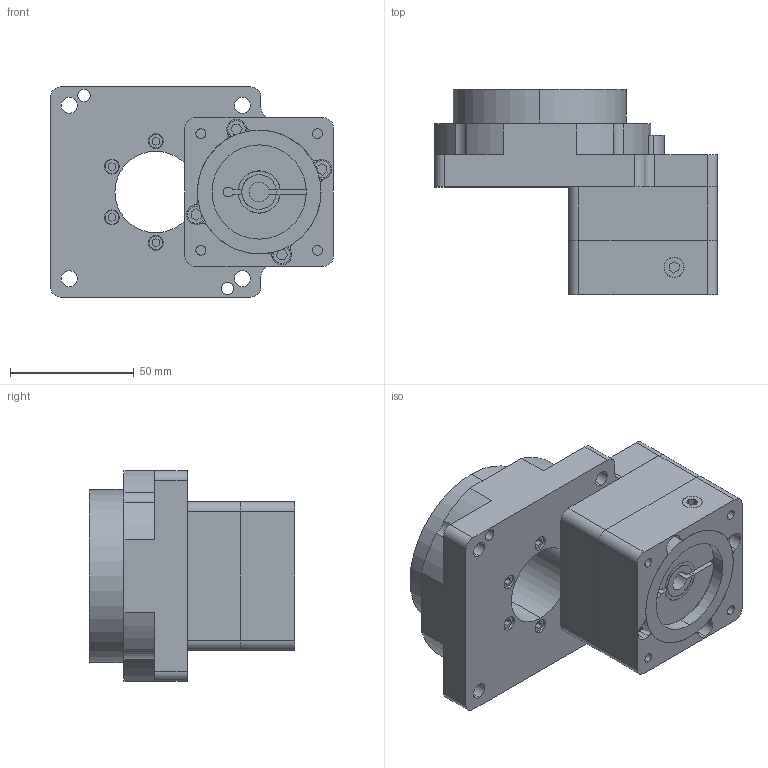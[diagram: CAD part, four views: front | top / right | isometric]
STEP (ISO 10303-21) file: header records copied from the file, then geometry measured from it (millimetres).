
FILE_DESCRIPTION (( 'STEP AP214' ), '1' );
FILE_NAME ('TS85-10K-57²½½ø 38.1 ¦µ8.STEP', '2020-05-13T10:19:45', ( '' ), ( '' ), 'SwSTEP 2.0', 'SolidWorks 2020', '' );
FILE_SCHEMA (( 'AUTOMOTIVE_DESIGN' ));
Length unit declared in the file: millimetre
Products named in the file (4): 38.1遠; TS85-10K-57祭輛 38.1 朴8; 14曹8粣杶; TS85-10K
Assembly tree (3 placements, depth 2):
  TS85-10K-57祭輛 38.1 朴8
    TS85-10K
    38.1遠
    14曹8粣杶
Bounding box: 114.3 x 83 x 85 mm (x, y, z)
Volume: 346992.9 mm3; surface area: 73850.3 mm2
Topology: 5 solids, 11 shells, 373 faces, 903 edges, 592 vertices
Faces by surface type: cylinder 185, plane 176, cone 12
Entity records: 11159 total; most frequent: DIRECTION 2031, CARTESIAN_POINT 1886, ORIENTED_EDGE 1782, EDGE_CURVE 891, AXIS2_PLACEMENT_3D 765, VERTEX_POINT 592, LINE 501, VECTOR 501
